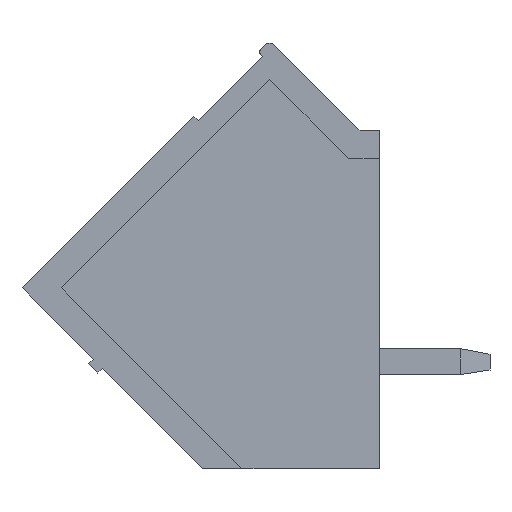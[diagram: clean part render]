
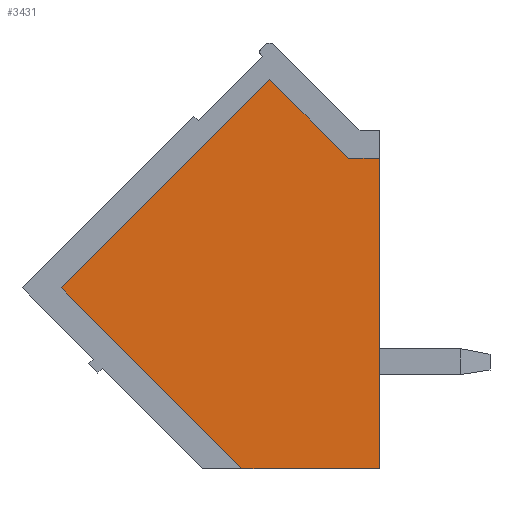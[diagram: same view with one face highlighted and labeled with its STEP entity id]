
A CAD part, left-side view. The second image highlights one B-rep face of the part: STEP entity #3431.
In plain terms, the highlighted planar face has unit normal (-1, 0, 0).
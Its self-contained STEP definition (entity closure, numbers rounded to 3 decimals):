
#37=DIRECTION('',(0.,-1.,0.));
#38=VECTOR('',#37,4.232);
#39=CARTESIAN_POINT('',(4.8,9.432,-13.183));
#40=LINE('',#39,#38);
#704=DIRECTION('',(0.,0.707,0.707));
#705=VECTOR('',#704,7.871);
#706=CARTESIAN_POINT('',(4.8,9.432,-13.183));
#707=LINE('',#706,#705);
#708=DIRECTION('',(0.,-0.707,0.707));
#709=VECTOR('',#708,9.072);
#710=CARTESIAN_POINT('',(4.8,14.998,-7.617));
#711=LINE('',#710,#709);
#712=DIRECTION('',(0.,-0.707,-0.707));
#713=VECTOR('',#712,3.438);
#714=CARTESIAN_POINT('',(4.8,8.583,-1.202));
#715=LINE('',#714,#713);
#724=DIRECTION('',(0.,1.,0.));
#725=VECTOR('',#724,0.952);
#726=CARTESIAN_POINT('',(4.8,5.2,-3.633));
#727=LINE('',#726,#725);
#736=DIRECTION('',(0.,0.,1.));
#737=VECTOR('',#736,9.55);
#738=CARTESIAN_POINT('',(4.8,5.2,-13.183));
#739=LINE('',#738,#737);
#1906=CARTESIAN_POINT('',(4.8,9.432,-13.183));
#1907=VERTEX_POINT('',#1906);
#1908=CARTESIAN_POINT('',(4.8,5.2,-13.183));
#1909=VERTEX_POINT('',#1908);
#2138=CARTESIAN_POINT('',(4.8,14.998,-7.617));
#2139=VERTEX_POINT('',#2138);
#2140=CARTESIAN_POINT('',(4.8,8.583,-1.202));
#2141=VERTEX_POINT('',#2140);
#2142=CARTESIAN_POINT('',(4.8,6.152,-3.633));
#2143=VERTEX_POINT('',#2142);
#2144=CARTESIAN_POINT('',(4.8,5.2,-3.633));
#2145=VERTEX_POINT('',#2144);
#3414=CARTESIAN_POINT('',(4.8,5.2,-13.183));
#3415=DIRECTION('',(1.,0.,0.));
#3416=DIRECTION('',(0.,0.,1.));
#3417=AXIS2_PLACEMENT_3D('',#3414,#3415,#3416);
#3418=PLANE('',#3417);
#3419=ORIENTED_EDGE('',*,*,#3405,.T.);
#3421=ORIENTED_EDGE('',*,*,#3420,.T.);
#3423=ORIENTED_EDGE('',*,*,#3422,.T.);
#3425=ORIENTED_EDGE('',*,*,#3424,.F.);
#3427=ORIENTED_EDGE('',*,*,#3426,.F.);
#3428=ORIENTED_EDGE('',*,*,#2554,.F.);
#3429=EDGE_LOOP('',(#3419,#3421,#3423,#3425,#3427,#3428));
#3430=FACE_OUTER_BOUND('',#3429,.F.);
#3431=ADVANCED_FACE('',(#3430),#3418,.F.);
#2554=EDGE_CURVE('',#1907,#1909,#40,.T.);
#3405=EDGE_CURVE('',#1907,#2139,#707,.T.);
#3420=EDGE_CURVE('',#2139,#2141,#711,.T.);
#3422=EDGE_CURVE('',#2141,#2143,#715,.T.);
#3424=EDGE_CURVE('',#2145,#2143,#727,.T.);
#3426=EDGE_CURVE('',#1909,#2145,#739,.T.);
